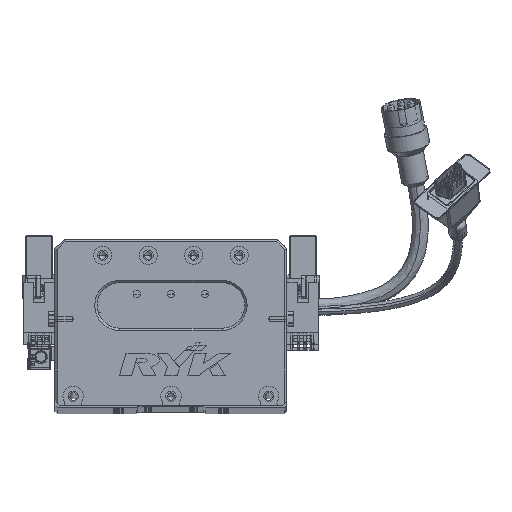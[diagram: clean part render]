
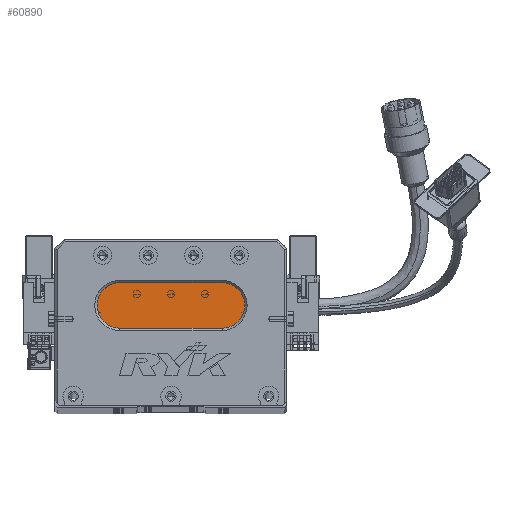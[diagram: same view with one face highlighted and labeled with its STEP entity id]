
A CAD part, top view. The second image highlights one B-rep face of the part: STEP entity #60890.
In plain terms, the highlighted planar face has unit normal (0, 0, 1) as drawn and (0, 0, -1) by its records, which use the part's own axes.
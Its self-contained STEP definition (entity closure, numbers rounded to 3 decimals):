
#132 = EDGE_CURVE ( 'NONE', #4501, #3779, #32169, .T. ) ;
#3779 = VERTEX_POINT ( 'NONE', #38868 ) ;
#4112 = EDGE_CURVE ( 'NONE', #65647, #42774, #18222, .T. ) ;
#4501 = VERTEX_POINT ( 'NONE', #30831 ) ;
#5235 = ORIENTED_EDGE ( 'NONE', *, *, #66358, .T. ) ;
#6645 = VERTEX_POINT ( 'NONE', #42676 ) ;
#10122 = CIRCLE ( 'NONE', #73998, 10. ) ;
#11762 = DIRECTION ( 'NONE',  ( -1., 0., 0. ) ) ;
#14411 = DIRECTION ( 'NONE',  ( -1., 0., 0. ) ) ;
#17282 = PLANE ( 'NONE',  #28293 ) ;
#18222 = CIRCLE ( 'NONE', #20738, 10. ) ;
#20738 = AXIS2_PLACEMENT_3D ( 'NONE', #56360, #22040, #38454 ) ;
#21125 = ORIENTED_EDGE ( 'NONE', *, *, #30435, .T. ) ;
#22040 = DIRECTION ( 'NONE',  ( 0., 0., -1. ) ) ;
#25750 = EDGE_LOOP ( 'NONE', ( #47975, #5235, #29597, #21125, #43819 ) ) ;
#26306 = CARTESIAN_POINT ( 'NONE',  ( 73.5, 44., 13. ) ) ;
#28293 = AXIS2_PLACEMENT_3D ( 'NONE', #40996, #40257, #11762 ) ;
#29597 = ORIENTED_EDGE ( 'NONE', *, *, #4112, .T. ) ;
#30435 = EDGE_CURVE ( 'NONE', #42774, #4501, #10122, .T. ) ;
#30831 = CARTESIAN_POINT ( 'NONE',  ( 28.5, 54., 13. ) ) ;
#32169 = LINE ( 'NONE', #40790, #61018 ) ;
#38454 = DIRECTION ( 'NONE',  ( -1., 0., 0. ) ) ;
#38502 = AXIS2_PLACEMENT_3D ( 'NONE', #26306, #71839, #14411 ) ;
#38868 = CARTESIAN_POINT ( 'NONE',  ( 73.5, 54., 13. ) ) ;
#40257 = DIRECTION ( 'NONE',  ( 0., 0., -1. ) ) ;
#40790 = CARTESIAN_POINT ( 'NONE',  ( 73.5, 54., 13. ) ) ;
#40996 = CARTESIAN_POINT ( 'NONE',  ( 73.5, 44., 13. ) ) ;
#42222 = CARTESIAN_POINT ( 'NONE',  ( 73.5, 34., 13. ) ) ;
#42447 = DIRECTION ( 'NONE',  ( -1., 0., 0. ) ) ;
#42676 = CARTESIAN_POINT ( 'NONE',  ( 73.5, 34., 13. ) ) ;
#42774 = VERTEX_POINT ( 'NONE', #50057 ) ;
#43450 = EDGE_CURVE ( 'NONE', #3779, #6645, #52947, .T. ) ;
#43819 = ORIENTED_EDGE ( 'NONE', *, *, #132, .T. ) ;
#43887 = VECTOR ( 'NONE', #60083, 1000. ) ;
#47085 = CARTESIAN_POINT ( 'NONE',  ( 28.5, 34., 13. ) ) ;
#47975 = ORIENTED_EDGE ( 'NONE', *, *, #43450, .T. ) ;
#50057 = CARTESIAN_POINT ( 'NONE',  ( 18.5, 44., 13. ) ) ;
#51984 = LINE ( 'NONE', #42222, #43887 ) ;
#52947 = CIRCLE ( 'NONE', #38502, 10. ) ;
#54776 = DIRECTION ( 'NONE',  ( 0., 0., -1. ) ) ;
#56360 = CARTESIAN_POINT ( 'NONE',  ( 28.5, 44., 13. ) ) ;
#60083 = DIRECTION ( 'NONE',  ( -1., 0., 0. ) ) ;
#60890 = ADVANCED_FACE ( 'NONE', ( #72344 ), #17282, .T. ) ;
#61018 = VECTOR ( 'NONE', #68953, 1000. ) ;
#65647 = VERTEX_POINT ( 'NONE', #47085 ) ;
#66358 = EDGE_CURVE ( 'NONE', #6645, #65647, #51984, .T. ) ;
#68953 = DIRECTION ( 'NONE',  ( 1., 0., 0. ) ) ;
#71576 = CARTESIAN_POINT ( 'NONE',  ( 28.5, 44., 13. ) ) ;
#71839 = DIRECTION ( 'NONE',  ( 0., 0., -1. ) ) ;
#72344 = FACE_OUTER_BOUND ( 'NONE', #25750, .T. ) ;
#73998 = AXIS2_PLACEMENT_3D ( 'NONE', #71576, #54776, #42447 ) ;
